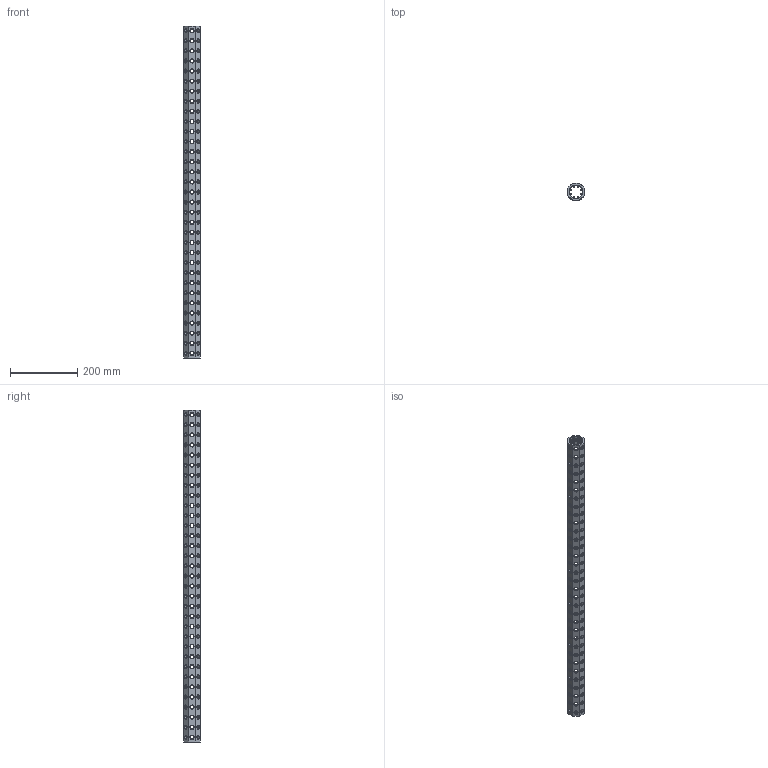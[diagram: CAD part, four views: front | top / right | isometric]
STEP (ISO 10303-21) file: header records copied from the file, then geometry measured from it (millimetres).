
FILE_DESCRIPTION(('CATIA V5 STEP Exchange'),'2;1');
FILE_NAME('U:\Room\唐宝山\EGT002\46-01-010262-01-EGT002-988.stp','2021-08-24T01:12:38+00:00',('none'),('none'),'CATIA Version 5 Release 21 GA (IN-10)','CATIA V5 STEP AP203','none');
FILE_SCHEMA(('CONFIG_CONTROL_DESIGN'));
Products named in the file (1): 46-01-010262-01-EGT002-988
Bounding box: 50 x 50 x 988 mm (x, y, z)
Volume: 703811.2 mm3; surface area: 340228.1 mm2
Topology: 1 solids, 1 shells, 1404 faces, 3876 edges, 2408 vertices
Faces by surface type: cone 792, cylinder 586, plane 26
Entity records: 60784 total; most frequent: CARTESIAN_POINT 27115, ORIENTED_EDGE 7752, DIRECTION 5284, EDGE_CURVE 3876, VERTEX_POINT 2408, AXIS2_PLACEMENT_3D 2365, EDGE_LOOP 1868, VECTOR 1516
